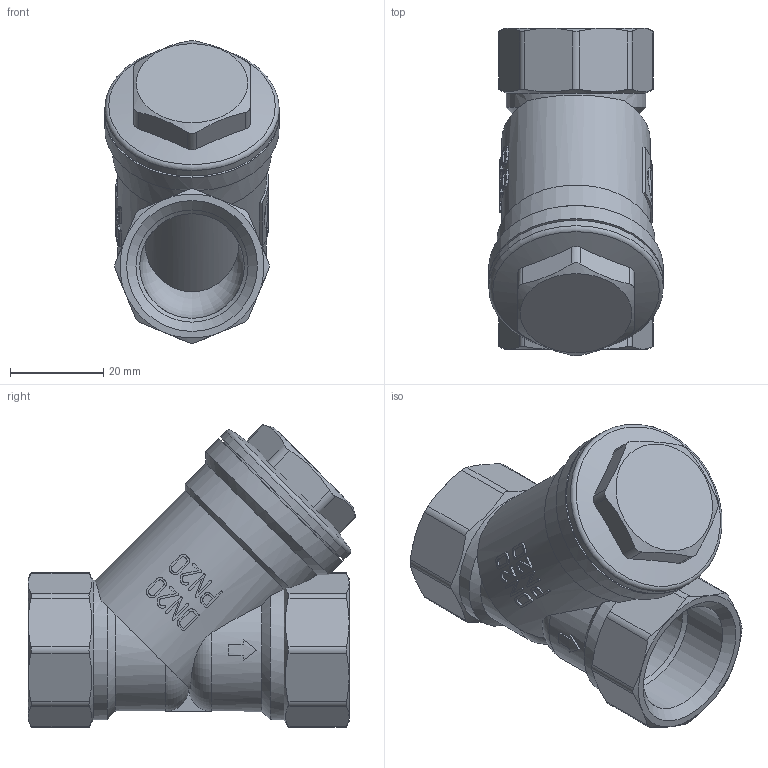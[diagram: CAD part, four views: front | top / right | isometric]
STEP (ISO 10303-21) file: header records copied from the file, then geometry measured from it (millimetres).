
FILE_DESCRIPTION(('STEP AP242'), '1');
FILE_NAME('VT.192.N.05', '', ('UNSPECIFIED'), ('UNSPECIFIED'), 'C3D Converter', 'C3D Toolkit', '');
FILE_SCHEMA(('AP242_MANAGED_MODEL_BASED_3D_ENGINEERING_MIM_LF { 1 0 10303 442 1 1 4 }'));
Length unit declared in the file: millimetre
Products named in the file (1): ВР.061146.018.000 СБ
Bounding box: 37.5 x 70.43 x 65.05 mm (x, y, z)
Volume: 56849.1 mm3; surface area: 16728.8 mm2
Topology: 1 solids, 1 shells, 348 faces, 948 edges, 624 vertices
Faces by surface type: extrusion 129, plane 127, cylinder 57, cone 28, torus 7
Full cylindrical faces by diameter (mm): 22.5 x2, 24.118 x2, 30 x1, 35 x1, 36 x1, 37.5 x2
Entity records: 18815 total; most frequent: CARTESIAN_POINT 11106, ORIENTED_EDGE 1822, DIRECTION 1118, EDGE_CURVE 911, VERTEX_POINT 615, B_SPLINE_CURVE_WITH_KNOTS 522, VECTOR 468, EDGE_LOOP 377
